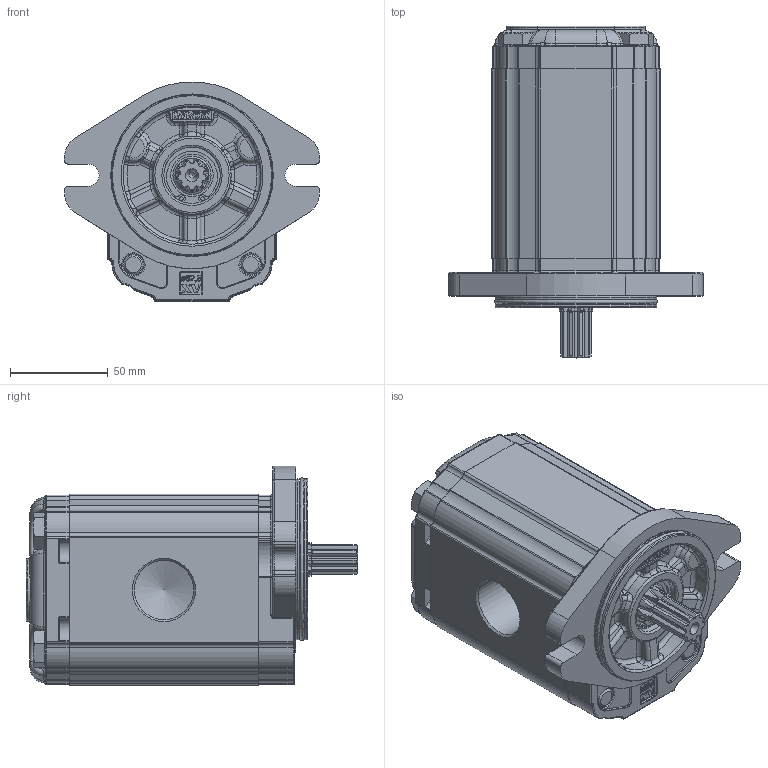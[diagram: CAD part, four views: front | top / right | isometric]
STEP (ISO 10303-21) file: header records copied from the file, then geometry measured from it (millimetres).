
FILE_DESCRIPTION(/* description */ ('Unknown'),/* implementation_level */ '2;1');
FILE_NAME(/* name */ 'X2R6131IDDE',/* time_stamp */ '2021-04-26T17:04:14+02:00',/* author */ ('Unknown'),/* organization */ ('Unknown'),/* preprocessor_version */ 'ST-DEVELOPER v16.7',/* originating_system */ 'Solid Edge',/* authorisation */ 'Unknown');
FILE_SCHEMA (('AUTOMOTIVE_DESIGN {1 0 10303 214 3 1 1}'));
Products named in the file (5): X2R6131IDDE; X2R31; 2I; X2DDH97; XR219-E
Assembly tree (4 placements, depth 2):
  X2R6131IDDE
    X2R31
    2I
    X2DDH97
    XR219-E
Bounding box: 130.38 x 169.7 x 112.3 mm (x, y, z)
Volume: 1028684.5 mm3; surface area: 117199.8 mm2
Topology: 4 solids, 5 shells, 1541 faces, 3896 edges, 2430 vertices
Faces by surface type: plane 598, cylinder 431, bspline 210, torus 200, cone 76, sphere 26
Full cylindrical faces by diameter (mm): 2 x2, 11 x2, 11.445 x1, 16 x4, 17.42 x1, 17.48 x2, 18.724 x1, 20.595 x1, 21.741 x1, 25.834 x1, 28.56 x1, 28.57 x1, 28.8 x1, 30.291 x2, 30.4 x1, 79.6 x2, 82.5 x2
Entity records: 58553 total; most frequent: CARTESIAN_POINT 12877, ORIENTED_EDGE 7592, DIRECTION 7246, EDGE_CURVE 3796, AXIS2_PLACEMENT_3D 2667, VERTEX_POINT 2398, LINE 1912, VECTOR 1912
